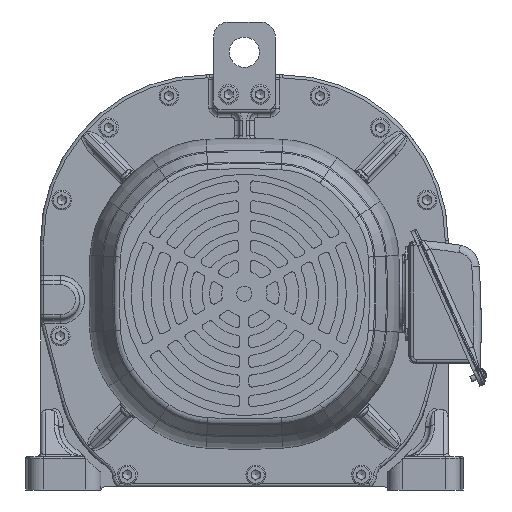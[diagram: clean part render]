
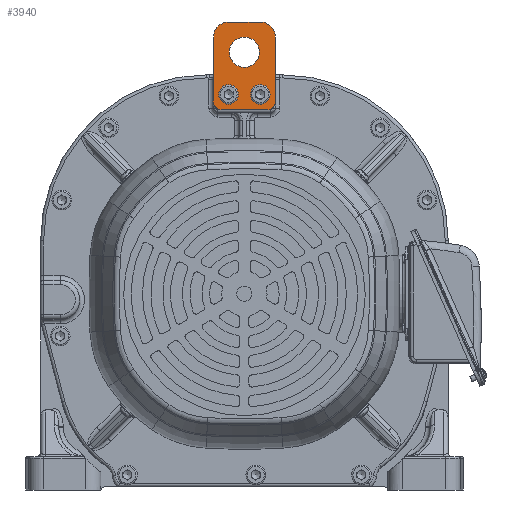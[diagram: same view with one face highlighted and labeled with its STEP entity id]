
A CAD part, left-side view. The second image highlights one B-rep face of the part: STEP entity #3940.
In plain terms, the highlighted planar face has unit normal (-1, 0, 0).
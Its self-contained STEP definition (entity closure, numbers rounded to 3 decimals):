
#3940 = ADVANCED_FACE( '', ( #8964, #8965, #8966, #8967 ), #8968, .T. );
#8964 = FACE_BOUND( '', #21524, .T. );
#8965 = FACE_OUTER_BOUND( '', #21525, .T. );
#8966 = FACE_BOUND( '', #21526, .T. );
#8967 = FACE_BOUND( '', #21527, .T. );
#8968 = PLANE( '', #21528 );
#21524 = EDGE_LOOP( '', ( #38811 ) );
#21525 = EDGE_LOOP( '', ( #38812, #38813, #38814, #38815, #38816, #38817, #38818, #38819 ) );
#21526 = EDGE_LOOP( '', ( #38820 ) );
#21527 = EDGE_LOOP( '', ( #38821 ) );
#21528 = AXIS2_PLACEMENT_3D( '', #38822, #38823, #38824 );
#38811 = ORIENTED_EDGE( '', *, *, #50590, .F. );
#38812 = ORIENTED_EDGE( '', *, *, #50591, .T. );
#38813 = ORIENTED_EDGE( '', *, *, #46318, .T. );
#38814 = ORIENTED_EDGE( '', *, *, #50592, .T. );
#38815 = ORIENTED_EDGE( '', *, *, #50593, .T. );
#38816 = ORIENTED_EDGE( '', *, *, #50594, .T. );
#38817 = ORIENTED_EDGE( '', *, *, #50595, .T. );
#38818 = ORIENTED_EDGE( '', *, *, #50596, .T. );
#38819 = ORIENTED_EDGE( '', *, *, #50597, .T. );
#38820 = ORIENTED_EDGE( '', *, *, #50570, .T. );
#38821 = ORIENTED_EDGE( '', *, *, #49296, .F. );
#38822 = CARTESIAN_POINT( '', ( -0.184, -137.779, 127. ) );
#38823 = DIRECTION( '', ( -1., 0., 0. ) );
#38824 = DIRECTION( '', ( 0., 0., -1. ) );
#46318 = EDGE_CURVE( '', #52571, #52569, #52572, .T. );
#49296 = EDGE_CURVE( '', #57451, #57451, #57452, .T. );
#50570 = EDGE_CURVE( '', #59246, #59246, #59247, .T. );
#50590 = EDGE_CURVE( '', #59271, #59271, #59272, .T. );
#50591 = EDGE_CURVE( '', #59273, #52571, #59274, .T. );
#50592 = EDGE_CURVE( '', #52569, #59275, #59276, .T. );
#50593 = EDGE_CURVE( '', #59275, #59277, #59278, .T. );
#50594 = EDGE_CURVE( '', #59277, #59279, #59280, .T. );
#50595 = EDGE_CURVE( '', #59279, #59281, #59282, .T. );
#50596 = EDGE_CURVE( '', #59281, #59283, #59284, .T. );
#50597 = EDGE_CURVE( '', #59283, #59273, #59285, .T. );
#52569 = VERTEX_POINT( '', #61579 );
#52571 = VERTEX_POINT( '', #61582 );
#52572 = LINE( '', #61583, #61584 );
#57451 = VERTEX_POINT( '', #71235 );
#57452 = CIRCLE( '', #71236, 6.5 );
#59246 = VERTEX_POINT( '', #74244 );
#59247 = CIRCLE( '', #74245, 10. );
#59271 = VERTEX_POINT( '', #74381 );
#59272 = CIRCLE( '', #74382, 6.5 );
#59273 = VERTEX_POINT( '', #74383 );
#59274 = CIRCLE( '', #74384, 5. );
#59275 = VERTEX_POINT( '', #74385 );
#59276 = CIRCLE( '', #74386, 5. );
#59277 = VERTEX_POINT( '', #74387 );
#59278 = LINE( '', #74388, #74389 );
#59279 = VERTEX_POINT( '', #74390 );
#59280 = CIRCLE( '', #74391, 10. );
#59281 = VERTEX_POINT( '', #74392 );
#59282 = LINE( '', #74393, #74394 );
#59283 = VERTEX_POINT( '', #74395 );
#59284 = CIRCLE( '', #74396, 10. );
#59285 = LINE( '', #74397, #74398 );
#61579 = CARTESIAN_POINT( '', ( -0.184, -168.779, 122. ) );
#61582 = CARTESIAN_POINT( '', ( -0.184, -137.779, 122. ) );
#61583 = CARTESIAN_POINT( '', ( -0.184, -137.779, 122. ) );
#61584 = VECTOR( '', #78746, 1000. );
#71235 = CARTESIAN_POINT( '', ( -0.184, -149.279, 132. ) );
#71236 = AXIS2_PLACEMENT_3D( '', #83269, #83270, #83271 );
#74244 = CARTESIAN_POINT( '', ( -0.184, -163.279, 160. ) );
#74245 = AXIS2_PLACEMENT_3D( '', #85047, #85048, #85049 );
#74381 = CARTESIAN_POINT( '', ( -0.184, -170.279, 132. ) );
#74382 = AXIS2_PLACEMENT_3D( '', #85072, #85073, #85074 );
#74383 = CARTESIAN_POINT( '', ( -0.184, -132.779, 127. ) );
#74384 = AXIS2_PLACEMENT_3D( '', #85075, #85076, #85077 );
#74385 = CARTESIAN_POINT( '', ( -0.184, -173.779, 127. ) );
#74386 = AXIS2_PLACEMENT_3D( '', #85078, #85079, #85080 );
#74387 = CARTESIAN_POINT( '', ( -0.184, -173.779, 170. ) );
#74388 = CARTESIAN_POINT( '', ( -0.184, -173.779, 127. ) );
#74389 = VECTOR( '', #85081, 1000. );
#74390 = CARTESIAN_POINT( '', ( -0.184, -163.779, 180. ) );
#74391 = AXIS2_PLACEMENT_3D( '', #85082, #85083, #85084 );
#74392 = CARTESIAN_POINT( '', ( -0.184, -142.779, 180. ) );
#74393 = CARTESIAN_POINT( '', ( -0.184, -163.779, 180. ) );
#74394 = VECTOR( '', #85085, 1000. );
#74395 = CARTESIAN_POINT( '', ( -0.184, -132.779, 170. ) );
#74396 = AXIS2_PLACEMENT_3D( '', #85086, #85087, #85088 );
#74397 = CARTESIAN_POINT( '', ( -0.184, -132.779, 170. ) );
#74398 = VECTOR( '', #85089, 1000. );
#78746 = DIRECTION( '', ( 0., -1., 0. ) );
#83269 = CARTESIAN_POINT( '', ( -0.184, -142.779, 132. ) );
#83270 = DIRECTION( '', ( -1., 0., 0. ) );
#83271 = DIRECTION( '', ( 0., -1., 0. ) );
#85047 = CARTESIAN_POINT( '', ( -0.184, -153.279, 160. ) );
#85048 = DIRECTION( '', ( 1., 0., 0. ) );
#85049 = DIRECTION( '', ( 0., -1., 0. ) );
#85072 = CARTESIAN_POINT( '', ( -0.184, -163.779, 132. ) );
#85073 = DIRECTION( '', ( -1., 0., 0. ) );
#85074 = DIRECTION( '', ( 0., -1., 0. ) );
#85075 = CARTESIAN_POINT( '', ( -0.184, -137.779, 127. ) );
#85076 = DIRECTION( '', ( -1., 0., 0. ) );
#85077 = DIRECTION( '', ( 0., -1., 0. ) );
#85078 = CARTESIAN_POINT( '', ( -0.184, -168.779, 127. ) );
#85079 = DIRECTION( '', ( -1., 0., 0. ) );
#85080 = DIRECTION( '', ( 0., 1., 0. ) );
#85081 = DIRECTION( '', ( 0., 0., 1. ) );
#85082 = CARTESIAN_POINT( '', ( -0.184, -163.779, 170. ) );
#85083 = DIRECTION( '', ( -1., 0., 0. ) );
#85084 = DIRECTION( '', ( 0., 1., 0. ) );
#85085 = DIRECTION( '', ( 0., 1., 0. ) );
#85086 = CARTESIAN_POINT( '', ( -0.184, -142.779, 170. ) );
#85087 = DIRECTION( '', ( -1., 0., 0. ) );
#85088 = DIRECTION( '', ( 0., -1., 0. ) );
#85089 = DIRECTION( '', ( 0., 0., -1. ) );
